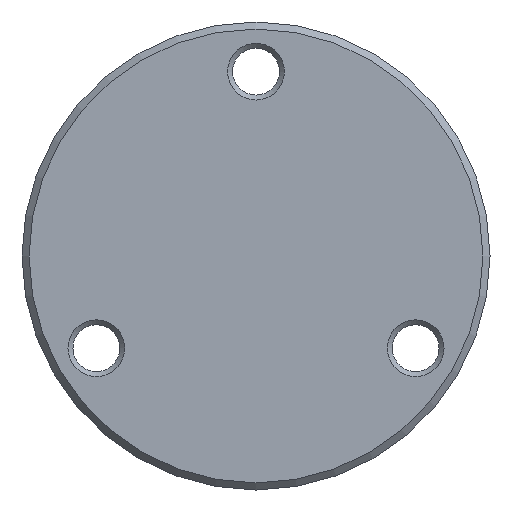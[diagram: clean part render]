
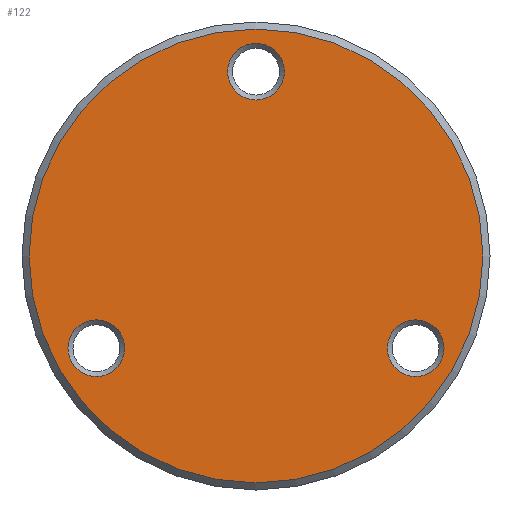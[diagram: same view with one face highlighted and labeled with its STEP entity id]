
A CAD part, front view. The second image highlights one B-rep face of the part: STEP entity #122.
In plain terms, the highlighted planar face has unit normal (0, -1, 0).
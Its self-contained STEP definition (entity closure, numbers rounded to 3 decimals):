
#116=PLANE('',#375);
#122=ADVANCED_FACE('',(#151,#152,#153,#154),#116,.T.);
#151=FACE_BOUND('',#196,.T.);
#152=FACE_BOUND('',#197,.T.);
#153=FACE_BOUND('',#198,.T.);
#154=FACE_BOUND('',#199,.T.);
#196=EDGE_LOOP('',(#242));
#197=EDGE_LOOP('',(#243));
#198=EDGE_LOOP('',(#244));
#199=EDGE_LOOP('',(#245));
#242=ORIENTED_EDGE('',*,*,#311,.T.);
#243=ORIENTED_EDGE('',*,*,#312,.T.);
#244=ORIENTED_EDGE('',*,*,#313,.T.);
#245=ORIENTED_EDGE('',*,*,#314,.T.);
#288=VERTEX_POINT('',#527);
#289=VERTEX_POINT('',#529);
#290=VERTEX_POINT('',#531);
#291=VERTEX_POINT('',#533);
#311=EDGE_CURVE('',#288,#288,#340,.T.);
#312=EDGE_CURVE('',#289,#289,#341,.T.);
#313=EDGE_CURVE('',#290,#290,#342,.T.);
#314=EDGE_CURVE('',#291,#291,#343,.T.);
#340=CIRCLE('',#371,16.);
#341=CIRCLE('',#372,2.);
#342=CIRCLE('',#373,2.);
#343=CIRCLE('',#374,2.);
#371=AXIS2_PLACEMENT_3D('',#526,#432,#433);
#372=AXIS2_PLACEMENT_3D('',#528,#434,#435);
#373=AXIS2_PLACEMENT_3D('',#530,#436,#437);
#374=AXIS2_PLACEMENT_3D('',#532,#438,#439);
#375=AXIS2_PLACEMENT_3D('',#534,#440,#441);
#432=DIRECTION('',(0.,-1.,0.));
#433=DIRECTION('',(0.,0.,-1.));
#434=DIRECTION('',(0.,1.,0.));
#435=DIRECTION('',(0.,0.,-1.));
#436=DIRECTION('',(0.,1.,0.));
#437=DIRECTION('',(0.,0.,-1.));
#438=DIRECTION('',(0.,1.,0.));
#439=DIRECTION('',(0.,0.,-1.));
#440=DIRECTION('',(0.,-1.,0.));
#441=DIRECTION('',(0.,0.,-1.));
#526=CARTESIAN_POINT('',(0.,-8.,0.));
#527=CARTESIAN_POINT('',(0.,-8.,-16.));
#528=CARTESIAN_POINT('',(-11.258,-8.,-6.5));
#529=CARTESIAN_POINT('',(-11.258,-8.,-8.5));
#530=CARTESIAN_POINT('',(11.258,-8.,-6.5));
#531=CARTESIAN_POINT('',(11.258,-8.,-8.5));
#532=CARTESIAN_POINT('',(0.,-8.,13.));
#533=CARTESIAN_POINT('',(0.,-8.,11.));
#534=CARTESIAN_POINT('',(0.,-8.,0.));
